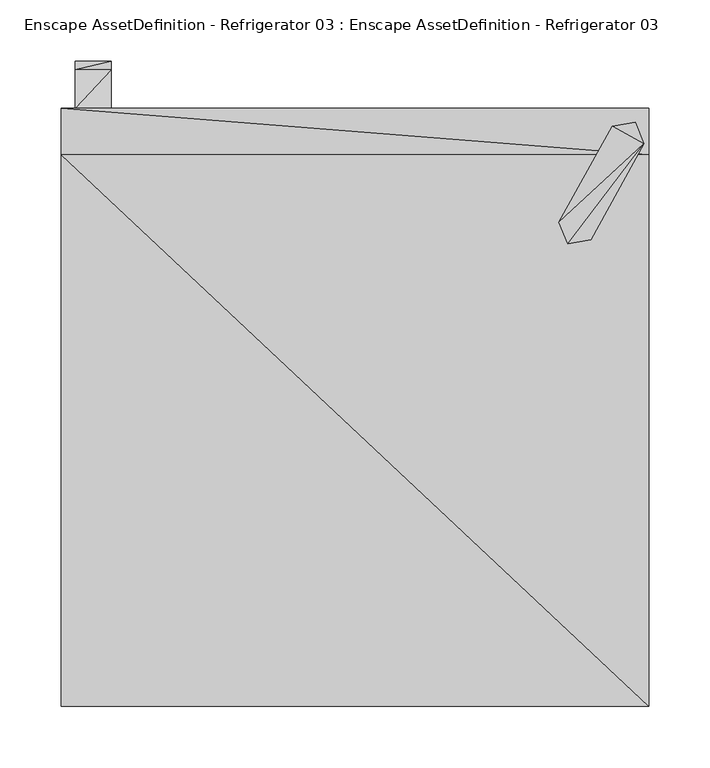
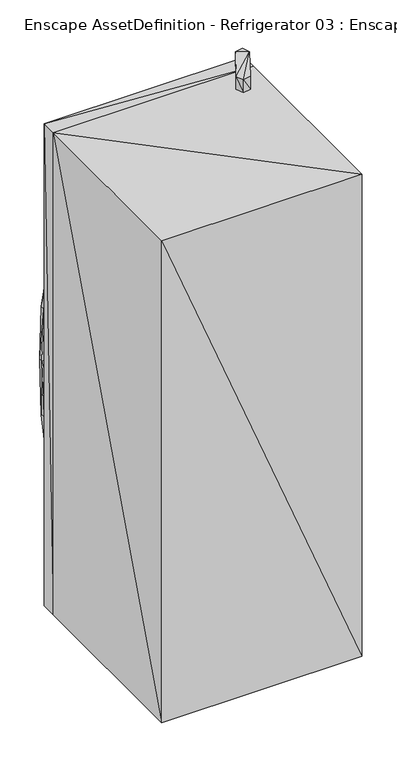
"""IFC4 building model written with IfcOpenShell, lengths in millimetres: geographic element geometry, Enscape AssetDefinition - Refrigerator 03 : Enscape AssetDefinition - Refrigerator 03."""

from ifc_helpers import new_model, si_unit, origin, place, context, project, spatial, faceted_brep, source, transform, mapped, element, save


def enscape_assetdefinition_refrigerator_03_enscape_10d53833(model_context):
    return source(origin(), model_context, "Body", "Brep", [
        faceted_brep([(239.9809957, -244.1789955, 26.2739994), (-239.9809957, -244.1789955, 26.2739994), (-239.9809957, 206.1920017, 26.2739994), (239.9809957, 206.1920017, 26.2739994), (-239.9809957, 206.1920017, 1246.8470335), (-239.9809957, 244.1789955, 1246.8470335), (-239.9809957, 244.1789955, 26.2739994), (-239.9809957, -244.1789955, 1246.8470335), (239.9809957, -244.1789955, 1246.8470335), (239.9809957, 206.1920017, 1246.8470335), (239.9809957, 244.1789955, 26.2739994), (-187.6920015, 244.1789955, 78.5619989), (187.6920015, 244.1789955, 78.5619989), (239.9809957, 244.1789955, 1246.8470335), (187.6920015, 244.1789955, 1194.5589781), (-187.6920015, 244.1789955, 1194.5589781), (-187.6920015, 228.6729962, 78.5619989), (187.6920015, 228.6729962, 78.5619989), (187.6920015, 228.6729962, 1194.5589781), (-187.6920015, 228.6729962, 1194.5589781)], [[[0, 1, 2]], [[3, 0, 2]], [[4, 2, 1]], [[5, 6, 2]], [[4, 5, 2]], [[3, 2, 6]], [[7, 1, 0]], [[7, 4, 1]], [[8, 0, 3]], [[8, 7, 0]], [[9, 8, 3]], [[9, 3, 10]], [[10, 3, 6]], [[6, 11, 12]], [[10, 6, 12]], [[6, 5, 11]], [[13, 9, 10]], [[10, 12, 14]], [[13, 10, 14]], [[8, 9, 4]], [[9, 13, 5]], [[4, 9, 5]], [[7, 8, 4]], [[5, 13, 15]], [[5, 15, 11]], [[16, 11, 15]], [[17, 12, 11]], [[16, 17, 11]], [[18, 14, 12]], [[17, 18, 12]], [[13, 14, 15]], [[19, 15, 14]], [[18, 19, 14]], [[19, 16, 15]], [[16, 19, 17]], [[19, 18, 17]]]),
        faceted_brep([(173.9419997, 133.5279942, 1279.8169851), (173.9419997, 133.5279942, 1246.8470335), (192.6240027, 136.6900057, 1246.8470335), (192.6240027, 136.6900057, 1279.8169851), (166.693002, 151.0339975, 1279.8169851), (166.693002, 151.0339975, 1246.8470335), (236.1149937, 215.3149992, 1279.8169851), (210.1850063, 229.6579927, 1279.8169851), (228.865996, 232.8200042, 1279.8169851), (210.1850063, 229.6579927, 1246.8470335), (228.865996, 232.8200042, 1246.8470335), (236.1149937, 215.3149992, 1246.8470335)], [[[0, 1, 2]], [[3, 0, 2]], [[4, 5, 1]], [[0, 4, 1]], [[0, 3, 6]], [[4, 0, 6]], [[7, 4, 6]], [[6, 8, 7]], [[4, 7, 9]], [[5, 4, 9]], [[10, 9, 7]], [[8, 10, 7]], [[6, 3, 2]], [[11, 6, 2]], [[1, 5, 9]], [[2, 1, 9]], [[11, 2, 9]], [[9, 10, 11]], [[6, 11, 10]], [[8, 6, 10]]]),
        faceted_brep([(165.3600037, 181.3150048, 0.0), (179.1750044, 167.5010026, 0.0), (179.1750044, 161.7300063, 32.7580012), (159.5900059, 181.3150048, 32.7580012), (198.7610012, 181.3150048, 32.7580012), (192.990005, 181.3150048, 0.0), (179.1750044, 195.1300055, 0.0), (179.1750044, 200.9010017, 32.7580012)], [[[0, 1, 2]], [[3, 0, 2]], [[4, 2, 1]], [[2, 4, 3]], [[5, 4, 1]], [[5, 1, 0]], [[6, 0, 3]], [[6, 5, 0]], [[7, 6, 3]], [[4, 7, 3]], [[4, 5, 7]], [[5, 6, 7]]]),
        faceted_brep([(-165.3600037, 181.3150048, 0.0), (-159.5900059, 181.3150048, 32.7580012), (-179.1750044, 161.7300063, 32.7580012), (-179.1750044, 167.5010026, 0.0), (-198.7610012, 181.3150048, 32.7580012), (-179.1750044, 195.1300055, 0.0), (-179.1750044, 200.9010017, 32.7580012), (-192.990005, 181.3150048, 0.0)], [[[0, 1, 2]], [[3, 0, 2]], [[2, 4, 3]], [[4, 2, 1]], [[5, 6, 1]], [[0, 5, 1]], [[6, 4, 1]], [[7, 5, 0]], [[3, 7, 0]], [[4, 7, 3]], [[7, 4, 6]], [[5, 7, 6]]]),
        faceted_brep([(165.3600037, -181.3150048, 0.0), (159.5900059, -181.3150048, 32.7580012), (179.1750044, -161.7300063, 32.7580012), (179.1750044, -167.5010026, 0.0), (198.7610012, -181.3150048, 32.7580012), (179.1750044, -195.1300055, 0.0), (179.1750044, -200.9010017, 32.7580012), (192.990005, -181.3150048, 0.0)], [[[0, 1, 2]], [[3, 0, 2]], [[2, 4, 3]], [[4, 2, 1]], [[5, 6, 1]], [[0, 5, 1]], [[6, 4, 1]], [[7, 5, 0]], [[3, 7, 0]], [[4, 7, 3]], [[7, 4, 6]], [[5, 7, 6]]]),
        faceted_brep([(-165.3600037, -181.3150048, 0.0), (-179.1750044, -167.5010026, 0.0), (-179.1750044, -161.7300063, 32.7580012), (-159.5900059, -181.3150048, 32.7580012), (-198.7610012, -181.3150048, 32.7580012), (-192.990005, -181.3150048, 0.0), (-179.1750044, -195.1300055, 0.0), (-179.1750044, -200.9010017, 32.7580012)], [[[0, 1, 2]], [[3, 0, 2]], [[4, 2, 1]], [[2, 4, 3]], [[5, 4, 1]], [[5, 1, 0]], [[6, 0, 3]], [[6, 5, 0]], [[7, 6, 3]], [[4, 7, 3]], [[4, 5, 7]], [[5, 6, 7]]]),
        faceted_brep([(-228.4349948, 282.5730145, 623.1399775), (-199.2370039, 282.5730145, 623.1399775), (-199.2370039, 275.6800056, 486.3039851), (-228.4349948, 275.6800056, 486.3039851), (-199.2370039, 244.1789955, 349.4690061), (-199.2370039, 235.6030047, 351.4429927), (-199.2370039, 266.9300139, 487.522006), (-228.4349948, 244.1789955, 349.4690061), (-228.4349948, 266.9300139, 487.522006), (-228.4349948, 273.7610042, 623.1399775), (-228.4349948, 235.6030047, 351.4429927), (-199.2370039, 273.7610042, 623.1399775), (-228.4349948, 266.9300139, 758.7580085), (-199.2370039, 266.9300139, 758.7580085), (-199.2370039, 275.6800056, 759.9760294), (-228.4349948, 235.6030047, 894.8370218), (-228.4349948, 275.6800056, 759.9760294), (-199.2370039, 235.6030047, 894.8370218), (-199.2370039, 244.1789955, 896.8110085), (-228.4349948, 244.1789955, 896.8110085)], [[[0, 1, 2]], [[3, 0, 2]], [[3, 2, 4]], [[5, 4, 2]], [[6, 5, 2]], [[6, 2, 1]], [[7, 3, 4]], [[8, 3, 7]], [[9, 0, 3]], [[8, 9, 3]], [[10, 7, 4]], [[5, 10, 4]], [[8, 10, 5]], [[6, 8, 5]], [[9, 8, 6]], [[11, 9, 6]], [[11, 6, 1]], [[10, 8, 7]], [[12, 9, 11]], [[13, 12, 11]], [[11, 1, 14]], [[13, 11, 14]], [[9, 12, 0]], [[15, 12, 13]], [[12, 16, 0]], [[12, 15, 16]], [[17, 15, 13]], [[13, 14, 18]], [[17, 13, 18]], [[15, 17, 19]], [[15, 19, 16]], [[16, 14, 1]], [[0, 16, 1]], [[16, 19, 14]], [[19, 18, 14]], [[17, 18, 19]]]),
    ])


if __name__ == "__main__":
    model = new_model("IFC4")
    model_context = context("Model", 3, world=origin())
    ifc_project = project(units=[si_unit("LENGTHUNIT", "METRE", prefix="MILLI")], contexts=[model_context])
    site = spatial("IfcSite", under=ifc_project)
    building = spatial("IfcBuilding", under=site)
    placement = place(None, origin())
    enscape_assetdefinition_refrigerator_03_enscape_shape = enscape_assetdefinition_refrigerator_03_enscape_10d53833(model_context)
    element("IfcGeographicElement", 1, ObjectType="Enscape AssetDefinition - Refrigerator 03 : Enscape AssetDefinition - Refrigerator 03", at=placement, inside=building, context=model_context, shape_type="MappedRepresentation", body=[
        mapped(enscape_assetdefinition_refrigerator_03_enscape_shape, transform((0.0, 0.0, 0.0), x_axis=(1.0, 0.0, 0.0), y_axis=(0.0, 1.0, 0.0), z_axis=(0.0, 0.0, 1.0))),
    ])
    save(model, "model.ifc")
